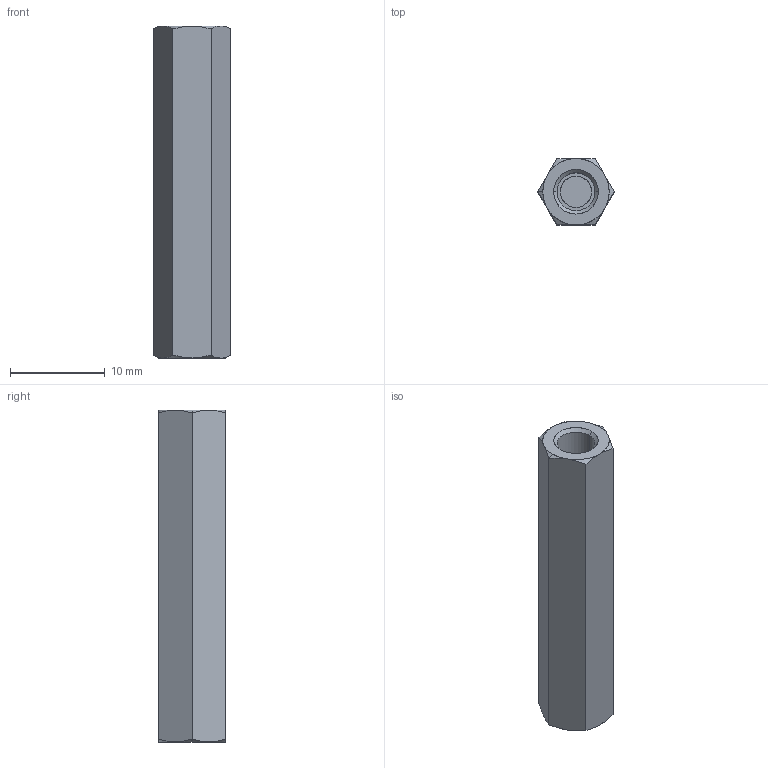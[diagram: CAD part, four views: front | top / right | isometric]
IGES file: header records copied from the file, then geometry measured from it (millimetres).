
Start section: SolidWorks IGES file using analytic representation for surfaces
Global section: file name: C:\Users\ianosborn\Desktop\N0503.NP_v2\N0503.NP_v2_20250227_IGES\N0503.040-035-NP.igs; native system: SolidWorks 2019; preprocessor: SolidWorks 2019; author: IanOsborn; date: 250227.144327; units: millimetre
Bounding box: 8.08 x 7 x 35 mm (x, y, z)
Surface area: 1199.2 mm2 (no closed solid volume)
Topology: 0 solids, 0 shells, 39 faces, 478 edges, 476 vertices
Faces by surface type: revolution 28, bspline 11
